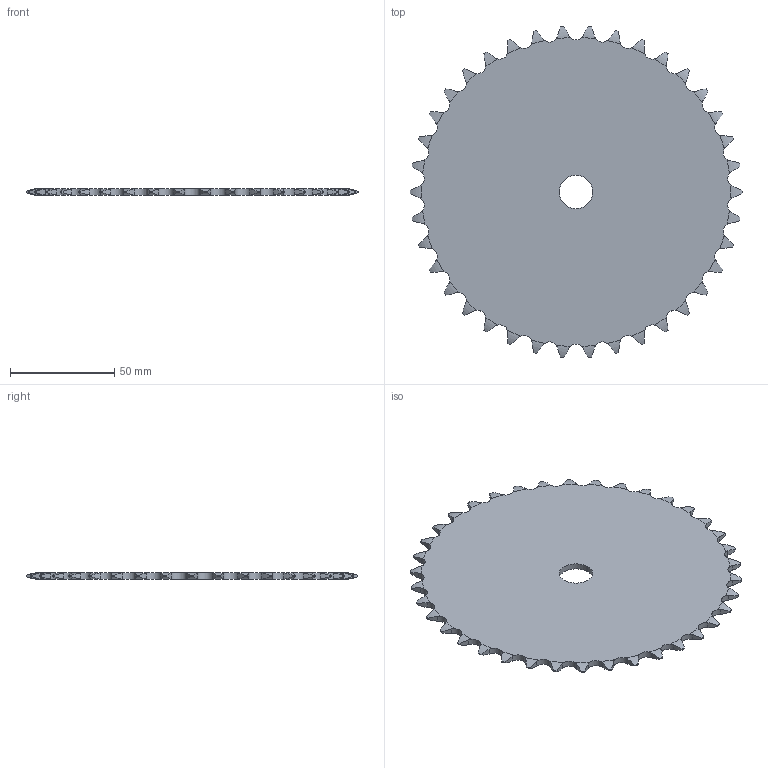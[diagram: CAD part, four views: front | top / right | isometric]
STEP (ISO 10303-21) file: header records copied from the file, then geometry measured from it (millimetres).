
FILE_DESCRIPTION((''),'2;1');
FILE_NAME('500-231-0038_PRT','2021-02-12T',('Brieden'),('Brieden'),'PRO/ENGINEER BY PARAMETRIC TECHNOLOGY CORPORATION, 2010160','PRO/ENGINEER BY PARAMETRIC TECHNOLOGY CORPORATION, 2010160','');
FILE_SCHEMA(('AUTOMOTIVE_DESIGN { 1 0 10303 214 1 1 1 1 }'));
Length unit declared in the file: millimetre
Products named in the file (1): 500-231-0038_PRT
Bounding box: 159.28 x 158.85 x 3 mm (x, y, z)
Volume: 52759.6 mm3; surface area: 37429.1 mm2
Topology: 1 solids, 1 shells, 232 faces, 690 edges, 460 vertices
Faces by surface type: cylinder 154, torus 76, plane 2
Entity records: 11380 total; most frequent: CARTESIAN_POINT 3383, ORIENTED_EDGE 1380, DIRECTION 1082, PRESENTATION_STYLE_ASSIGNMENT 691, STYLED_ITEM 691, CURVE_STYLE 690, EDGE_CURVE 690, AXIS2_PLACEMENT_3D 464
